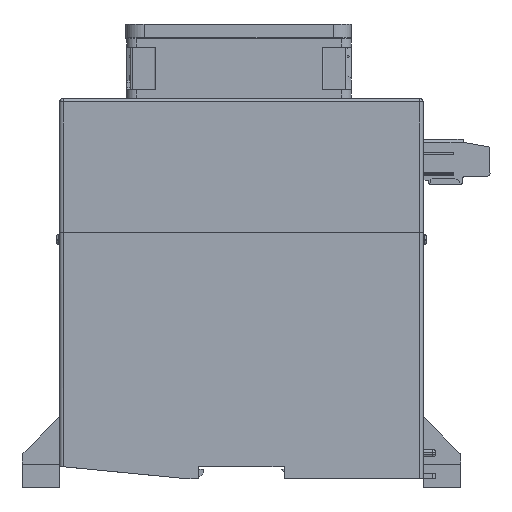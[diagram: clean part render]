
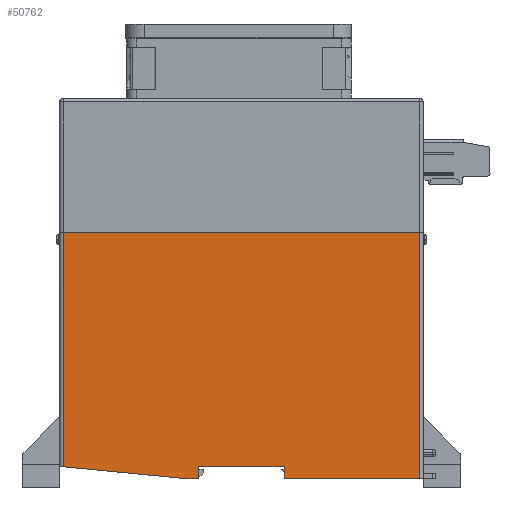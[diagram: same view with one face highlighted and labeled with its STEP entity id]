
A CAD part, left-side view. The second image highlights one B-rep face of the part: STEP entity #50762.
In plain terms, the highlighted planar face has unit normal (-1, 0, 0) as drawn and (1, 0, 0) by its records, which use the part's own axes.
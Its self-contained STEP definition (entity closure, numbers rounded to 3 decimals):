
#3039=PLANE('',#53993);
#5041=FACE_OUTER_BOUND('',#7925,.T.);
#7925=EDGE_LOOP('',(#38249,#38250,#38251,#38252,#38253,#38254,#38255,#38256,
#38257));
#11772=LINE('',#75229,#16973);
#11804=LINE('',#75298,#17005);
#11843=LINE('',#75405,#17044);
#11844=LINE('',#75407,#17045);
#11845=LINE('',#75409,#17046);
#11846=LINE('',#75410,#17047);
#11847=LINE('',#75412,#17048);
#11848=LINE('',#75414,#17049);
#11849=LINE('',#75415,#17050);
#16973=VECTOR('',#60873,1.);
#17005=VECTOR('',#60919,1.);
#17044=VECTOR('',#61020,1.);
#17045=VECTOR('',#61021,1.);
#17046=VECTOR('',#61022,1.);
#17047=VECTOR('',#61023,1.);
#17048=VECTOR('',#61024,1.);
#17049=VECTOR('',#61025,1.);
#17050=VECTOR('',#61026,1.);
#23619=VERTEX_POINT('',#75226);
#23620=VERTEX_POINT('',#75228);
#23650=VERTEX_POINT('',#75297);
#23686=VERTEX_POINT('',#75403);
#23687=VERTEX_POINT('',#75404);
#23688=VERTEX_POINT('',#75406);
#23689=VERTEX_POINT('',#75408);
#23690=VERTEX_POINT('',#75411);
#23691=VERTEX_POINT('',#75413);
#29076=EDGE_CURVE('',#23620,#23619,#11772,.T.);
#29111=EDGE_CURVE('',#23650,#23620,#11804,.T.);
#29163=EDGE_CURVE('',#23686,#23687,#11843,.T.);
#29164=EDGE_CURVE('',#23688,#23687,#11844,.T.);
#29165=EDGE_CURVE('',#23688,#23689,#11845,.T.);
#29166=EDGE_CURVE('',#23650,#23689,#11846,.T.);
#29167=EDGE_CURVE('',#23619,#23690,#11847,.T.);
#29168=EDGE_CURVE('',#23690,#23691,#11848,.T.);
#29169=EDGE_CURVE('',#23691,#23686,#11849,.T.);
#38249=ORIENTED_EDGE('',*,*,#29163,.T.);
#38250=ORIENTED_EDGE('',*,*,#29164,.F.);
#38251=ORIENTED_EDGE('',*,*,#29165,.T.);
#38252=ORIENTED_EDGE('',*,*,#29166,.F.);
#38253=ORIENTED_EDGE('',*,*,#29111,.T.);
#38254=ORIENTED_EDGE('',*,*,#29076,.T.);
#38255=ORIENTED_EDGE('',*,*,#29167,.T.);
#38256=ORIENTED_EDGE('',*,*,#29168,.T.);
#38257=ORIENTED_EDGE('',*,*,#29169,.T.);
#50762=ADVANCED_FACE('',(#5041),#3039,.T.);
#53993=AXIS2_PLACEMENT_3D('',#75402,#61018,#61019);
#60873=DIRECTION('',(0.,0.,1.));
#60919=DIRECTION('',(0.,1.,0.));
#61018=DIRECTION('center_axis',(1.,0.,0.));
#61019=DIRECTION('ref_axis',(0.,1.,0.));
#61020=DIRECTION('',(0.,0.,1.));
#61021=DIRECTION('',(0.,1.,0.));
#61022=DIRECTION('',(0.,0.,-1.));
#61023=DIRECTION('',(0.,-0.995,0.096));
#61024=DIRECTION('',(0.,1.,0.));
#61025=DIRECTION('',(0.,0.,-1.));
#61026=DIRECTION('',(0.,1.,0.));
#75226=CARTESIAN_POINT('',(148.82,11.713,-3.5));
#75228=CARTESIAN_POINT('',(148.82,11.713,-8.5));
#75229=CARTESIAN_POINT('',(148.82,11.713,0.));
#75297=CARTESIAN_POINT('',(148.82,7.713,-8.5));
#75298=CARTESIAN_POINT('',(148.82,0.,-8.5));
#75402=CARTESIAN_POINT('Origin',(148.82,-237.707,-106.013));
#75403=CARTESIAN_POINT('',(148.82,102.213,-8.5));
#75404=CARTESIAN_POINT('',(148.82,102.213,92.5));
#75405=CARTESIAN_POINT('',(148.82,102.213,0.));
#75406=CARTESIAN_POINT('',(148.82,-43.787,92.5));
#75407=CARTESIAN_POINT('',(148.82,0.,92.5));
#75408=CARTESIAN_POINT('',(148.82,-43.787,-3.508));
#75409=CARTESIAN_POINT('',(148.82,-43.787,0.));
#75410=CARTESIAN_POINT('',(148.82,0.,-7.752));
#75411=CARTESIAN_POINT('',(148.82,46.713,-3.5));
#75412=CARTESIAN_POINT('',(148.82,0.,-3.5));
#75413=CARTESIAN_POINT('',(148.82,46.713,-8.5));
#75414=CARTESIAN_POINT('',(148.82,46.713,-3.5));
#75415=CARTESIAN_POINT('',(148.82,0.,-8.5));
